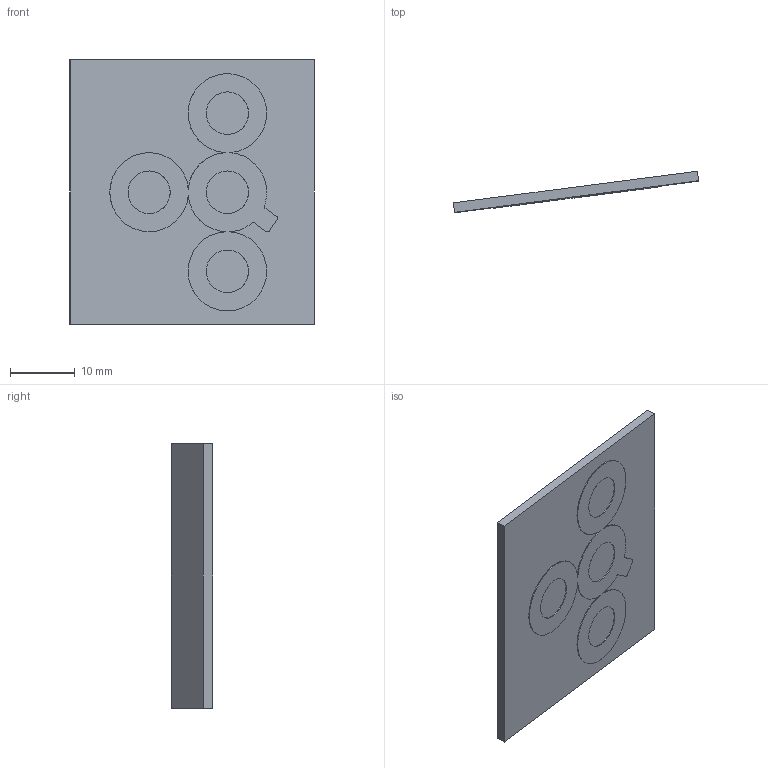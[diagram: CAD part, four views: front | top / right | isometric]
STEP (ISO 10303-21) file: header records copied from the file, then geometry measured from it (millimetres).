
FILE_DESCRIPTION(/* description */ (''),/* implementation_level */ '2;1');
FILE_NAME(/* name */ 'DOTCUS~2',/* time_stamp */ '2024-11-04T13:00:27+01:00',/* author */ (''),/* organization */ (''),/* preprocessor_version */ 'ST-DEVELOPER v16.5',/* originating_system */ '',/* authorisation */ '');
FILE_SCHEMA (('AUTOMOTIVE_DESIGN'));
Length unit declared in the file: millimetre
Products named in the file (1): Document
Bounding box: 37.87 x 6.37 x 40.92 mm (x, y, z)
Volume: 2348.5 mm3; surface area: 4064.9 mm2
Topology: 2 solids, 2 shells, 279 faces, 826 edges, 551 vertices
Faces by surface type: bspline 145, plane 134
Entity records: 8208 total; most frequent: CARTESIAN_POINT 3494, ORIENTED_EDGE 1650, EDGE_CURVE 825, VERTEX_POINT 550, B_SPLINE_CURVE_WITH_KNOTS 397, EDGE_LOOP 287, ADVANCED_FACE 279, FACE_OUTER_BOUND 279
